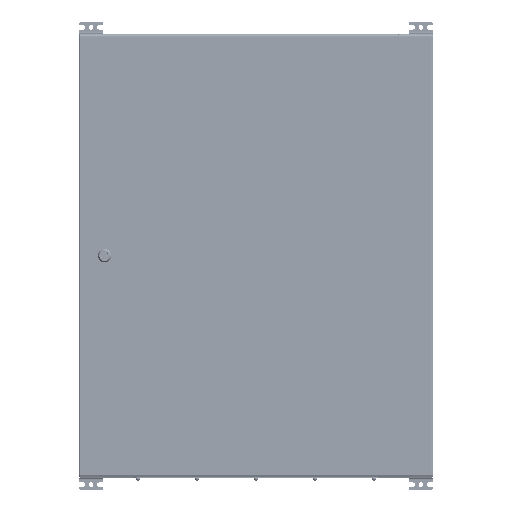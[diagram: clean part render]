
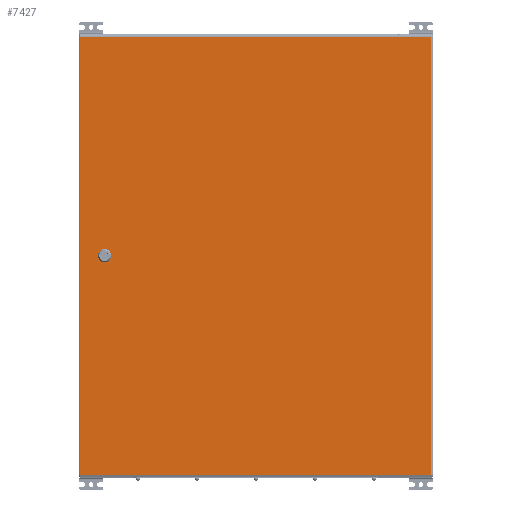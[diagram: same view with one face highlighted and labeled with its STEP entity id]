
A CAD part, top view. The second image highlights one B-rep face of the part: STEP entity #7427.
In plain terms, the highlighted planar face has unit normal (0, 0, 1).
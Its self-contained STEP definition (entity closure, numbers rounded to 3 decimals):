
#7427=ADVANCED_FACE('',(#16735,#16737),#16739,.T.);
#16735=FACE_BOUND('',#16736,.T.);
#16736=EDGE_LOOP('',(#43059,#43060,#43061,#43062));
#16737=FACE_BOUND('',#16738,.T.);
#16738=EDGE_LOOP('',(#43063,#43064,#43065,#43066,#43067,#43068,#43069,#43070));
#16739=PLANE('',#16740);
#16740=AXIS2_PLACEMENT_3D('',#16741,#16742,#16743);
#16741=CARTESIAN_POINT('',(0.,0.,1.5));
#16742=DIRECTION('',(0.,0.,1.));
#16743=DIRECTION('',(1.,0.,0.));
#43059=ORIENTED_EDGE('',*,*,#48508,.T.);
#43060=ORIENTED_EDGE('',*,*,#48509,.T.);
#43061=ORIENTED_EDGE('',*,*,#48510,.T.);
#43062=ORIENTED_EDGE('',*,*,#48511,.T.);
#43063=ORIENTED_EDGE('',*,*,#48467,.T.);
#43064=ORIENTED_EDGE('',*,*,#48482,.T.);
#43065=ORIENTED_EDGE('',*,*,#48480,.T.);
#43066=ORIENTED_EDGE('',*,*,#48478,.T.);
#43067=ORIENTED_EDGE('',*,*,#48476,.T.);
#43068=ORIENTED_EDGE('',*,*,#48474,.T.);
#43069=ORIENTED_EDGE('',*,*,#48472,.T.);
#43070=ORIENTED_EDGE('',*,*,#48470,.T.);
#48467=EDGE_CURVE('',#52652,#52653,#52654,.F.);
#48470=EDGE_CURVE('',#52657,#52652,#52658,.F.);
#48472=EDGE_CURVE('',#52660,#52657,#52661,.F.);
#48474=EDGE_CURVE('',#52663,#52660,#52664,.F.);
#48476=EDGE_CURVE('',#52666,#52663,#52667,.F.);
#48478=EDGE_CURVE('',#52669,#52666,#52670,.F.);
#48480=EDGE_CURVE('',#52672,#52669,#52673,.F.);
#48482=EDGE_CURVE('',#52653,#52672,#52675,.F.);
#48508=EDGE_CURVE('',#52716,#52717,#52718,.T.);
#48509=EDGE_CURVE('',#52717,#52719,#52720,.T.);
#48510=EDGE_CURVE('',#52719,#52721,#52722,.T.);
#48511=EDGE_CURVE('',#52721,#52716,#52723,.T.);
#52652=VERTEX_POINT('',#62723);
#52653=VERTEX_POINT('',#62724);
#52654=LINE('',#62725,#62726);
#52657=VERTEX_POINT('',#62734);
#52658=CIRCLE('',#62735,11.25);
#52660=VERTEX_POINT('',#62742);
#52661=LINE('',#62743,#62744);
#52663=VERTEX_POINT('',#62749);
#52664=CIRCLE('',#62750,11.25);
#52666=VERTEX_POINT('',#62757);
#52667=LINE('',#62758,#62759);
#52669=VERTEX_POINT('',#62764);
#52670=CIRCLE('',#62765,11.25);
#52672=VERTEX_POINT('',#62772);
#52673=LINE('',#62773,#62774);
#52675=CIRCLE('',#62779,11.25);
#52716=VERTEX_POINT('',#62880);
#52717=VERTEX_POINT('',#62881);
#52718=LINE('',#62882,#62883);
#52719=VERTEX_POINT('',#62885);
#52720=LINE('',#62886,#62887);
#52721=VERTEX_POINT('',#62889);
#52722=LINE('',#62890,#62891);
#52723=LINE('',#62893,#62894);
#62723=CARTESIAN_POINT('',(-489.545,-64.6,1.5));
#62724=CARTESIAN_POINT('',(-499.455,-64.6,1.5));
#62725=CARTESIAN_POINT('',(-499.455,-64.6,1.5));
#62726=VECTOR('',#62727,1.);
#62727=DIRECTION('',(1.,0.,0.));
#62734=CARTESIAN_POINT('',(-484.4,-59.455,1.5));
#62735=AXIS2_PLACEMENT_3D('',#62736,#62737,#62738);
#62736=CARTESIAN_POINT('',(-494.5,-54.5,1.5));
#62737=DIRECTION('',(0.,0.,1.));
#62738=DIRECTION('',(0.44,-0.898,0.));
#62742=CARTESIAN_POINT('',(-484.4,-49.545,1.5));
#62743=CARTESIAN_POINT('',(-484.4,-59.455,1.5));
#62744=VECTOR('',#62745,1.);
#62745=DIRECTION('',(0.,1.,0.));
#62749=CARTESIAN_POINT('',(-489.545,-44.4,1.5));
#62750=AXIS2_PLACEMENT_3D('',#62751,#62752,#62753);
#62751=CARTESIAN_POINT('',(-494.5,-54.5,1.5));
#62752=DIRECTION('',(0.,0.,1.));
#62753=DIRECTION('',(0.898,0.44,0.));
#62757=CARTESIAN_POINT('',(-499.455,-44.4,1.5));
#62758=CARTESIAN_POINT('',(-489.545,-44.4,1.5));
#62759=VECTOR('',#62760,1.);
#62760=DIRECTION('',(-1.,0.,0.));
#62764=CARTESIAN_POINT('',(-504.6,-49.545,1.5));
#62765=AXIS2_PLACEMENT_3D('',#62766,#62767,#62768);
#62766=CARTESIAN_POINT('',(-494.5,-54.5,1.5));
#62767=DIRECTION('',(0.,0.,1.));
#62768=DIRECTION('',(-0.44,0.898,0.));
#62772=CARTESIAN_POINT('',(-504.6,-59.455,1.5));
#62773=CARTESIAN_POINT('',(-504.6,-49.545,1.5));
#62774=VECTOR('',#62775,1.);
#62775=DIRECTION('',(0.,-1.,0.));
#62779=AXIS2_PLACEMENT_3D('',#62780,#62781,#62782);
#62780=CARTESIAN_POINT('',(-494.5,-54.5,1.5));
#62781=DIRECTION('',(0.,0.,1.));
#62782=DIRECTION('',(-0.898,-0.44,0.));
#62880=CARTESIAN_POINT('',(0.,-792.,1.5));
#62881=CARTESIAN_POINT('',(0.,0.,1.5));
#62882=CARTESIAN_POINT('',(0.,-792.,1.5));
#62883=VECTOR('',#62884,1.);
#62884=DIRECTION('',(0.,1.,0.));
#62885=CARTESIAN_POINT('',(-989.,0.,1.5));
#62886=CARTESIAN_POINT('',(0.,0.,1.5));
#62887=VECTOR('',#62888,1.);
#62888=DIRECTION('',(-1.,0.,0.));
#62889=CARTESIAN_POINT('',(-989.,-792.,1.5));
#62890=CARTESIAN_POINT('',(-989.,0.,1.5));
#62891=VECTOR('',#62892,1.);
#62892=DIRECTION('',(0.,-1.,0.));
#62893=CARTESIAN_POINT('',(-989.,-792.,1.5));
#62894=VECTOR('',#62895,1.);
#62895=DIRECTION('',(1.,0.,0.));
